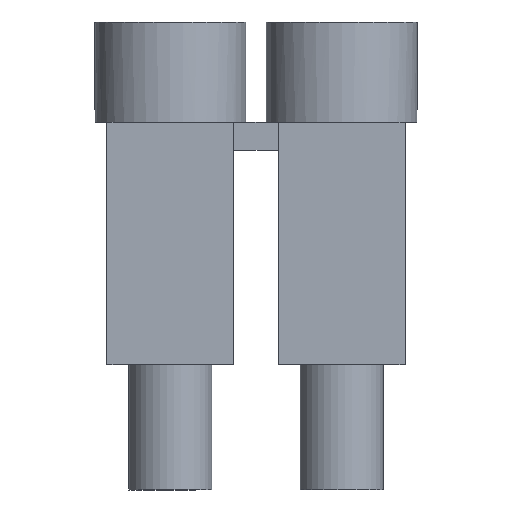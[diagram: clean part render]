
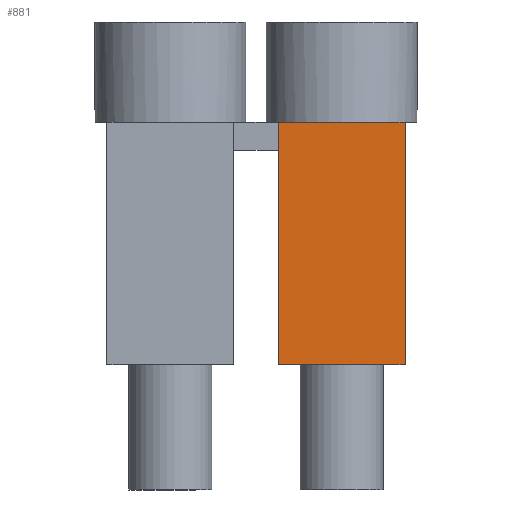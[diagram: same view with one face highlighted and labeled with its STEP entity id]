
A CAD part, front view. The second image highlights one B-rep face of the part: STEP entity #881.
In plain terms, the highlighted planar face has unit normal (0, -1, 0).
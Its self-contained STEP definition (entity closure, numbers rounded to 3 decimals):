
#642=CARTESIAN_POINT('',(6.587,0.,13.2));
#643=VERTEX_POINT('',#642);
#659=CARTESIAN_POINT('',(11.138,0.,13.2));
#660=VERTEX_POINT('',#659);
#667=CARTESIAN_POINT('',(11.138,0.,13.2));
#668=DIRECTION('',(-1.,0.,0.));
#669=VECTOR('',#668,4.55);
#670=LINE('',#667,#669);
#671=EDGE_CURVE('',#660,#643,#670,.T.);
#851=CARTESIAN_POINT('',(8.862,0.,8.85));
#852=DIRECTION('',(1.,0.,0.));
#853=DIRECTION('',(0.,1.,0.));
#854=AXIS2_PLACEMENT_3D('',#851,#853,#852);
#855=PLANE('',#854);
#856=CARTESIAN_POINT('',(6.587,0.,4.5));
#857=VERTEX_POINT('',#856);
#858=CARTESIAN_POINT('',(6.587,0.,13.2));
#859=DIRECTION('',(0.,0.,-1.));
#860=VECTOR('',#859,8.7);
#861=LINE('',#858,#860);
#862=EDGE_CURVE('',#643,#857,#861,.T.);
#863=ORIENTED_EDGE('E82',*,*,#862,.F.);
#864=ORIENTED_EDGE('E82',*,*,#671,.F.);
#865=CARTESIAN_POINT('',(11.138,0.,4.5));
#866=VERTEX_POINT('',#865);
#867=CARTESIAN_POINT('',(11.138,0.,4.5));
#868=DIRECTION('',(0.,0.,1.));
#869=VECTOR('',#868,8.7);
#870=LINE('',#867,#869);
#871=EDGE_CURVE('',#866,#660,#870,.T.);
#872=ORIENTED_EDGE('E83',*,*,#871,.F.);
#873=CARTESIAN_POINT('',(11.138,0.,4.5));
#874=DIRECTION('',(-1.,0.,0.));
#875=VECTOR('',#874,4.55);
#876=LINE('',#873,#875);
#877=EDGE_CURVE('',#866,#857,#876,.T.);
#878=ORIENTED_EDGE('E84',*,*,#877,.T.);
#879=EDGE_LOOP('',(#863,#864,#872,#878));
#880=FACE_OUTER_BOUND('',#879,.F.);
#881=ADVANCED_FACE('F21',(#880),#855,.F.);
